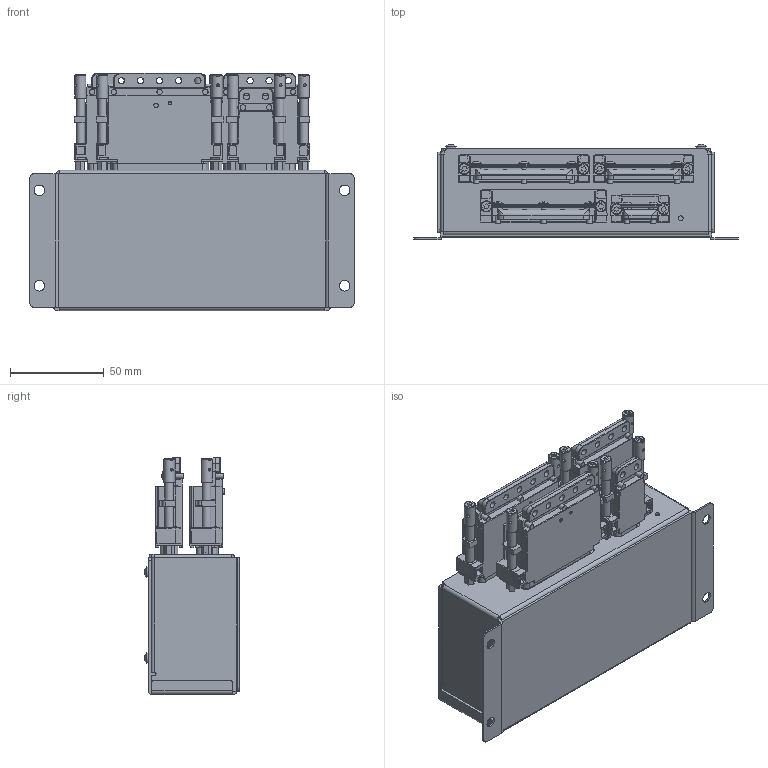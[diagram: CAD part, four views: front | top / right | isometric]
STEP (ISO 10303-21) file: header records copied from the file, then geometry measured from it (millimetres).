
FILE_DESCRIPTION (( 'STEP AP203' ), '1' );
FILE_NAME ('GEA24_rev1 .STEP', '2017-08-31T21:35:14', ( 'Garmin' ), ( 'Garmin' ), 'SwSTEP 2.0', 'SolidWorks 2016', '' );
FILE_SCHEMA (( 'CONFIG_CONTROL_DESIGN' ));
Length unit declared in the file: millimetre
Products named in the file (1): GEA24_rev1 
Bounding box: 172.72 x 50.76 x 126.38 mm (x, y, z)
Volume: 628383.7 mm3; surface area: 101115.2 mm2
Topology: 5 solids, 28 shells, 2718 faces, 6895 edges, 4291 vertices
Faces by surface type: plane 1549, cylinder 964, cone 95, sphere 44, bspline 36, torus 30
Full cylindrical faces by diameter (mm): 0.635 x50, 0.991 x46, 1.143 x25, 1.587 x8, 1.778 x3, 2.083 x25, 2.261 x17, 2.54 x1, 2.845 x28, 3.2 x8, 3.264 x10, 3.302 x14, 3.454 x16, 3.5 x4, 4.572 x8, 4.801 x7, 4.934 x1, 5.563 x4, 5.588 x10, 5.613 x4, 5.944 x8
Entity records: 79786 total; most frequent: CARTESIAN_POINT 17915, ORIENTED_EDGE 12630, DIRECTION 12409, EDGE_CURVE 6315, AXIS2_PLACEMENT_3D 4275, VERTEX_POINT 4144, LINE 3859, VECTOR 3859
